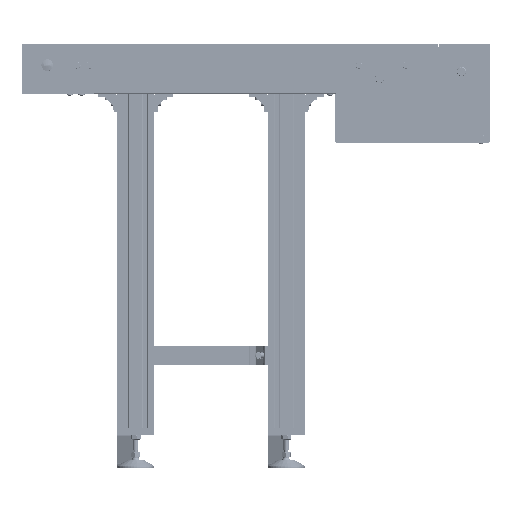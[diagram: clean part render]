
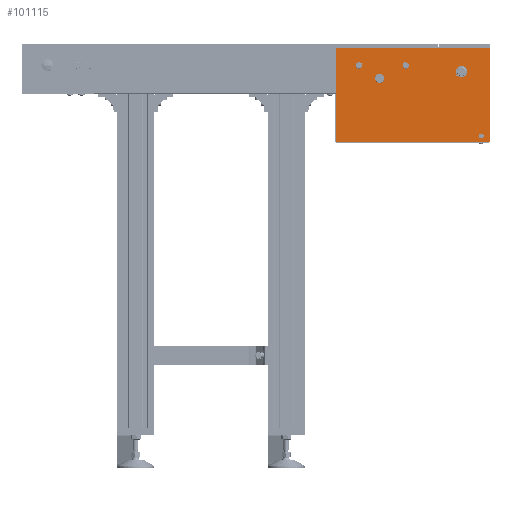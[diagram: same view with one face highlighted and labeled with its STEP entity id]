
A CAD part, front view. The second image highlights one B-rep face of the part: STEP entity #101115.
In plain terms, the highlighted planar face has unit normal (0, -1, 0).
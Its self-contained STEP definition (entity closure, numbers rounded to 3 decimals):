
#3017=FACE_BOUND('',#13735,.T.);
#3018=FACE_BOUND('',#13736,.T.);
#3019=FACE_BOUND('',#13737,.T.);
#3020=FACE_BOUND('',#13738,.T.);
#3021=FACE_BOUND('',#13739,.T.);
#4415=CIRCLE('',#106939,10.);
#4457=CIRCLE('',#107031,5.);
#4474=CIRCLE('',#107068,6.5);
#4475=CIRCLE('',#107069,6.5);
#4476=CIRCLE('',#107070,10.);
#8228=FACE_OUTER_BOUND('',#13734,.T.);
#13734=EDGE_LOOP('',(#68552,#68553,#68554,#68555));
#13735=EDGE_LOOP('',(#68556));
#13736=EDGE_LOOP('',(#68557));
#13737=EDGE_LOOP('',(#68558));
#13738=EDGE_LOOP('',(#68559));
#13739=EDGE_LOOP('',(#68560));
#21440=LINE('',#149699,#31467);
#21451=LINE('',#149733,#31478);
#21452=LINE('',#149735,#31479);
#21453=LINE('',#149736,#31480);
#31467=VECTOR('',#120010,330.);
#31478=VECTOR('',#120035,200.);
#31479=VECTOR('',#120036,200.);
#31480=VECTOR('',#120037,330.);
#40969=VERTEX_POINT('',#149401);
#41029=VERTEX_POINT('',#149590);
#41055=VERTEX_POINT('',#149696);
#41056=VERTEX_POINT('',#149698);
#41072=VERTEX_POINT('',#149732);
#41073=VERTEX_POINT('',#149734);
#41074=VERTEX_POINT('',#149737);
#41075=VERTEX_POINT('',#149739);
#41076=VERTEX_POINT('',#149741);
#51458=EDGE_CURVE('',#40969,#40969,#4415,.T.);
#51537=EDGE_CURVE('',#41029,#41029,#4457,.T.);
#51575=EDGE_CURVE('',#41056,#41055,#21440,.T.);
#51592=EDGE_CURVE('',#41072,#41056,#21451,.T.);
#51593=EDGE_CURVE('',#41055,#41073,#21452,.T.);
#51594=EDGE_CURVE('',#41073,#41072,#21453,.T.);
#51595=EDGE_CURVE('',#41074,#41074,#4474,.T.);
#51596=EDGE_CURVE('',#41075,#41075,#4475,.T.);
#51597=EDGE_CURVE('',#41076,#41076,#4476,.T.);
#68552=ORIENTED_EDGE('',*,*,#51592,.T.);
#68553=ORIENTED_EDGE('',*,*,#51575,.T.);
#68554=ORIENTED_EDGE('',*,*,#51593,.T.);
#68555=ORIENTED_EDGE('',*,*,#51594,.T.);
#68556=ORIENTED_EDGE('',*,*,#51458,.T.);
#68557=ORIENTED_EDGE('',*,*,#51537,.T.);
#68558=ORIENTED_EDGE('',*,*,#51595,.T.);
#68559=ORIENTED_EDGE('',*,*,#51596,.F.);
#68560=ORIENTED_EDGE('',*,*,#51597,.F.);
#91941=PLANE('',#107067);
#101115=ADVANCED_FACE('',(#8228,#3017,#3018,#3019,#3020,#3021),#91941,.T.);
#106939=AXIS2_PLACEMENT_3D('',#149402,#119714,#119715);
#107031=AXIS2_PLACEMENT_3D('',#149591,#119935,#119936);
#107067=AXIS2_PLACEMENT_3D('',#149731,#120033,#120034);
#107068=AXIS2_PLACEMENT_3D('',#149738,#120038,#120039);
#107069=AXIS2_PLACEMENT_3D('',#149740,#120040,#120041);
#107070=AXIS2_PLACEMENT_3D('',#149742,#120042,#120043);
#119714=DIRECTION('center_axis',(0.,1.,0.));
#119715=DIRECTION('ref_axis',(-0.431,0.,-0.902));
#119935=DIRECTION('center_axis',(0.,1.,0.));
#119936=DIRECTION('ref_axis',(-1.,0.,0.));
#120010=DIRECTION('',(-1.,0.,0.));
#120033=DIRECTION('center_axis',(0.,-1.,0.));
#120034=DIRECTION('ref_axis',(1.,0.,0.));
#120035=DIRECTION('',(0.,0.,1.));
#120036=DIRECTION('',(0.,0.,-1.));
#120037=DIRECTION('',(1.,0.,0.));
#120038=DIRECTION('center_axis',(0.,1.,0.));
#120039=DIRECTION('ref_axis',(-1.,0.,0.));
#120040=DIRECTION('center_axis',(0.,-1.,0.));
#120041=DIRECTION('ref_axis',(-1.,0.,0.));
#120042=DIRECTION('center_axis',(0.,-1.,0.));
#120043=DIRECTION('ref_axis',(0.108,0.,0.994));
#149401=CARTESIAN_POINT('',(943.811,-175.7,55.723));
#149402=CARTESIAN_POINT('Origin',(939.5,-175.7,46.7));
#149590=CARTESIAN_POINT('',(976.5,-175.7,-91.05));
#149591=CARTESIAN_POINT('Origin',(981.5,-175.7,-91.05));
#149696=CARTESIAN_POINT('',(670.5,-175.7,96.45));
#149698=CARTESIAN_POINT('',(1000.5,-175.7,96.45));
#149699=CARTESIAN_POINT('',(835.5,-175.7,96.45));
#149731=CARTESIAN_POINT('Origin',(835.5,-175.7,-3.55));
#149732=CARTESIAN_POINT('',(1000.5,-175.7,-103.55));
#149733=CARTESIAN_POINT('',(1000.5,-175.7,-3.55));
#149734=CARTESIAN_POINT('',(670.5,-175.7,-103.55));
#149735=CARTESIAN_POINT('',(670.5,-175.7,-3.55));
#149736=CARTESIAN_POINT('',(835.5,-175.7,-103.55));
#149737=CARTESIAN_POINT('',(814.,-175.7,59.975));
#149738=CARTESIAN_POINT('Origin',(820.5,-175.7,59.975));
#149739=CARTESIAN_POINT('',(714.,-175.7,59.975));
#149740=CARTESIAN_POINT('Origin',(720.5,-175.7,59.975));
#149741=CARTESIAN_POINT('',(765.578,-175.7,42.642));
#149742=CARTESIAN_POINT('Origin',(764.5,-175.7,32.7));
